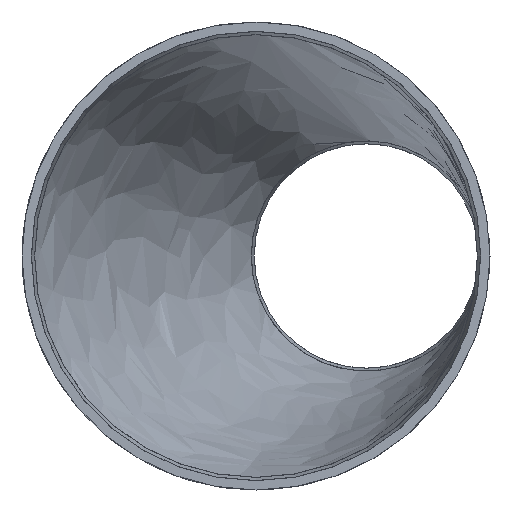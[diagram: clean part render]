
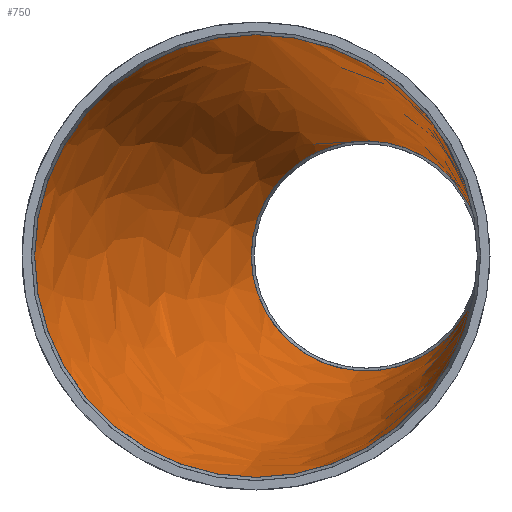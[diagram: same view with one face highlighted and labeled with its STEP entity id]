
A CAD part, left-side view. The second image highlights one B-rep face of the part: STEP entity #750.
In plain terms, the highlighted free-form (B-spline) face has degree [1, 2] with [2, 9] control points.
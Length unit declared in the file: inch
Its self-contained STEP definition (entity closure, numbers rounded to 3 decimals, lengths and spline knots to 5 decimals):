
#57=B_SPLINE_CURVE_WITH_KNOTS('',1,(#1385,#1386),.UNSPECIFIED.,.F.,.F.,
(2,2),(0.00479,2.90876),.UNSPECIFIED.);
#59=(
BOUNDED_SURFACE()
B_SPLINE_SURFACE(1,2,((#1367,#1368,#1369,#1370,#1371,#1372,#1373,#1374,
#1375),(#1376,#1377,#1378,#1379,#1380,#1381,#1382,#1383,#1384)),
 .UNSPECIFIED.,.F.,.T.,.F.)
B_SPLINE_SURFACE_WITH_KNOTS((2,2),(3,2,2,2,3),(-0.17017,2.9932),
(-3.14159,-1.5708,0.,1.5708,3.14159),
 .UNSPECIFIED.)
GEOMETRIC_REPRESENTATION_ITEM()
RATIONAL_B_SPLINE_SURFACE(((1.,0.707,1.,0.707,1.,
0.707,1.,0.707,1.),(1.,0.707,1.,0.707,
1.,0.707,1.,0.707,1.)))
REPRESENTATION_ITEM('')
SURFACE()
);
#127=FACE_OUTER_BOUND('',#159,.T.);
#159=EDGE_LOOP('',(#612,#613,#614,#615,#616,#617,#618,#619,#620,#621));
#209=CIRCLE('',#823,3.18);
#210=CIRCLE('',#824,3.18);
#211=CIRCLE('',#825,3.18);
#212=CIRCLE('',#826,3.18);
#223=CIRCLE('',#840,1.63);
#224=CIRCLE('',#841,1.63);
#225=CIRCLE('',#842,1.63);
#226=CIRCLE('',#843,1.63);
#298=VERTEX_POINT('',#1280);
#299=VERTEX_POINT('',#1281);
#300=VERTEX_POINT('',#1283);
#301=VERTEX_POINT('',#1285);
#311=VERTEX_POINT('',#1312);
#312=VERTEX_POINT('',#1313);
#313=VERTEX_POINT('',#1315);
#314=VERTEX_POINT('',#1317);
#391=EDGE_CURVE('',#298,#299,#209,.T.);
#392=EDGE_CURVE('',#299,#300,#210,.T.);
#393=EDGE_CURVE('',#300,#301,#211,.T.);
#395=EDGE_CURVE('',#301,#298,#212,.T.);
#407=EDGE_CURVE('',#311,#312,#223,.T.);
#408=EDGE_CURVE('',#312,#313,#224,.T.);
#409=EDGE_CURVE('',#313,#314,#225,.T.);
#411=EDGE_CURVE('',#314,#311,#226,.T.);
#435=EDGE_CURVE('',#299,#313,#57,.T.);
#612=ORIENTED_EDGE('',*,*,#391,.F.);
#613=ORIENTED_EDGE('',*,*,#395,.F.);
#614=ORIENTED_EDGE('',*,*,#393,.F.);
#615=ORIENTED_EDGE('',*,*,#392,.F.);
#616=ORIENTED_EDGE('',*,*,#435,.T.);
#617=ORIENTED_EDGE('',*,*,#408,.F.);
#618=ORIENTED_EDGE('',*,*,#407,.F.);
#619=ORIENTED_EDGE('',*,*,#411,.F.);
#620=ORIENTED_EDGE('',*,*,#409,.F.);
#621=ORIENTED_EDGE('',*,*,#435,.F.);
#750=ADVANCED_FACE('',(#127),#59,.T.);
#823=AXIS2_PLACEMENT_3D('',#1282,#1004,#1005);
#824=AXIS2_PLACEMENT_3D('',#1284,#1006,#1007);
#825=AXIS2_PLACEMENT_3D('',#1286,#1008,#1009);
#826=AXIS2_PLACEMENT_3D('',#1288,#1011,#1012);
#840=AXIS2_PLACEMENT_3D('',#1314,#1040,#1041);
#841=AXIS2_PLACEMENT_3D('',#1316,#1042,#1043);
#842=AXIS2_PLACEMENT_3D('',#1318,#1044,#1045);
#843=AXIS2_PLACEMENT_3D('',#1320,#1047,#1048);
#1004=DIRECTION('center_axis',(1.,0.,0.));
#1005=DIRECTION('ref_axis',(0.,1.,0.));
#1006=DIRECTION('center_axis',(1.,0.,0.));
#1007=DIRECTION('ref_axis',(0.,1.,0.));
#1008=DIRECTION('center_axis',(1.,0.,0.));
#1009=DIRECTION('ref_axis',(0.,1.,0.));
#1011=DIRECTION('center_axis',(1.,0.,0.));
#1012=DIRECTION('ref_axis',(0.,1.,0.));
#1040=DIRECTION('center_axis',(-1.,0.,0.));
#1041=DIRECTION('ref_axis',(0.,-1.,0.));
#1042=DIRECTION('center_axis',(-1.,0.,0.));
#1043=DIRECTION('ref_axis',(0.,-1.,0.));
#1044=DIRECTION('center_axis',(-1.,0.,0.));
#1045=DIRECTION('ref_axis',(0.,-1.,0.));
#1047=DIRECTION('center_axis',(-1.,0.,0.));
#1048=DIRECTION('ref_axis',(0.,-1.,0.));
#1280=CARTESIAN_POINT('',(1.26,-3.15456,-0.40144));
#1281=CARTESIAN_POINT('',(1.26,-0.09017,3.17872));
#1282=CARTESIAN_POINT('Origin',(1.26,0.,0.));
#1283=CARTESIAN_POINT('',(1.26,-3.15456,0.40144));
#1284=CARTESIAN_POINT('Origin',(1.26,0.,0.));
#1285=CARTESIAN_POINT('',(1.26,-3.18,0.));
#1286=CARTESIAN_POINT('Origin',(1.26,0.,0.));
#1288=CARTESIAN_POINT('Origin',(1.26,0.,0.));
#1312=CARTESIAN_POINT('',(10.24,-3.17946,-0.20577));
#1313=CARTESIAN_POINT('',(10.24,-3.17946,0.20577));
#1314=CARTESIAN_POINT('Origin',(10.24,-1.5625,0.));
#1315=CARTESIAN_POINT('',(10.24,-1.60872,1.62934));
#1316=CARTESIAN_POINT('Origin',(10.24,-1.5625,0.));
#1317=CARTESIAN_POINT('',(10.24,0.0675,0.));
#1318=CARTESIAN_POINT('Origin',(10.24,-1.5625,0.));
#1320=CARTESIAN_POINT('Origin',(10.24,-1.5625,0.));
#1367=CARTESIAN_POINT('Ctrl Pts',(0.71896,0.00133,
3.27207));
#1368=CARTESIAN_POINT('Ctrl Pts',(0.18124,-3.1785,3.27207));
#1369=CARTESIAN_POINT('Ctrl Pts',(0.18124,-3.1785,0.));
#1370=CARTESIAN_POINT('Ctrl Pts',(0.18124,-3.1785,-3.27207));
#1371=CARTESIAN_POINT('Ctrl Pts',(0.71896,0.00133,
-3.27207));
#1372=CARTESIAN_POINT('Ctrl Pts',(1.25668,3.18115,-3.27207));
#1373=CARTESIAN_POINT('Ctrl Pts',(1.25668,3.18115,0.));
#1374=CARTESIAN_POINT('Ctrl Pts',(1.25668,3.18115,3.27207));
#1375=CARTESIAN_POINT('Ctrl Pts',(0.71896,0.00133,
3.27207));
#1376=CARTESIAN_POINT('Ctrl Pts',(10.50109,-1.65287,1.5843));
#1377=CARTESIAN_POINT('Ctrl Pts',(10.24073,-3.1925,1.5843));
#1378=CARTESIAN_POINT('Ctrl Pts',(10.24073,-3.1925,0.));
#1379=CARTESIAN_POINT('Ctrl Pts',(10.24073,-3.1925,-1.5843));
#1380=CARTESIAN_POINT('Ctrl Pts',(10.50109,-1.65287,-1.5843));
#1381=CARTESIAN_POINT('Ctrl Pts',(10.76145,-0.11324,-1.5843));
#1382=CARTESIAN_POINT('Ctrl Pts',(10.76145,-0.11324,0.));
#1383=CARTESIAN_POINT('Ctrl Pts',(10.76145,-0.11324,1.5843));
#1384=CARTESIAN_POINT('Ctrl Pts',(10.50109,-1.65287,1.5843));
#1385=CARTESIAN_POINT('Ctrl Pts',(1.26,-0.09017,3.17872));
#1386=CARTESIAN_POINT('Ctrl Pts',(10.24,-1.60872,1.62934));
